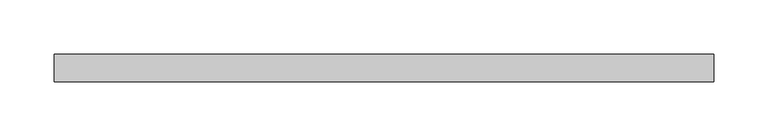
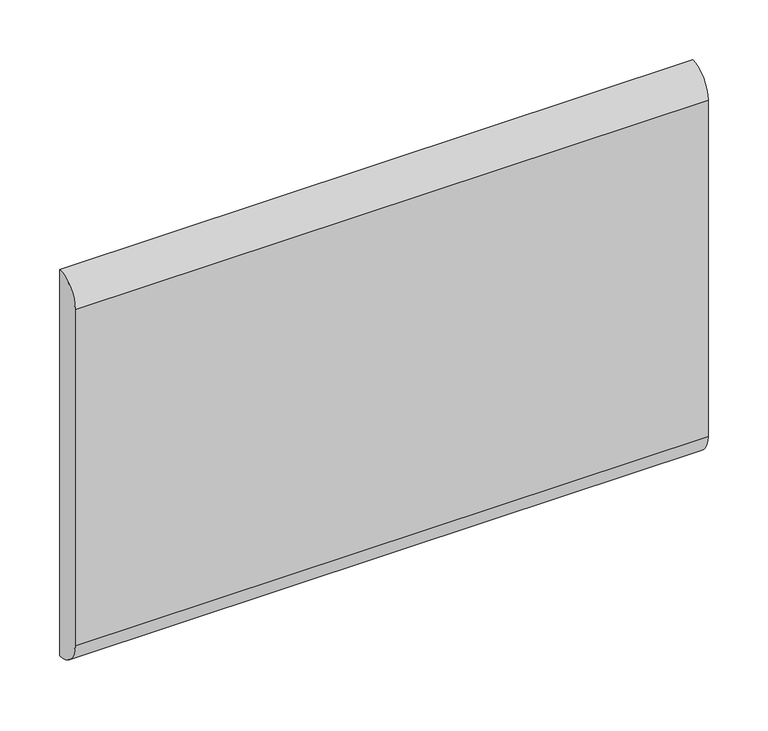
"""IFC4 building model written with IfcOpenShell, lengths in millimetres: furniture geometry."""

from ifc_helpers import new_model, si_unit, point, frame, frame_2d, origin, place, context, project, spatial, polyline, circle_curve, trimmed, segment, composite_curve, outline, extrude, source, transform, mapped, element, save


def furniture_061b7ed1(model_context):
    return source(origin(), model_context, "Body", "SweptSolid", [
        extrude(outline(composite_curve([segment(trimmed(circle_curve(frame_2d((12.7, 812.8)), 25.4), [point((12.7, 787.4))], [point((-12.7, 812.8))], False, "CARTESIAN"), True, "CONTINUOUS"), segment(polyline([(-12.7, 812.8), (-12.7, 1155.7)]), True, "CONTINUOUS"), segment(trimmed(circle_curve(frame_2d((12.7, 1155.7)), 25.4), [point((-12.7, 1155.7))], [point((12.7, 1181.1))], False, "CARTESIAN"), True, "CONTINUOUS"), segment(polyline([(12.7, 1181.1), (12.7, 787.4)]), True, "CONTINUOUS")], self_intersect=False)), frame((-304.8, 0.0, 0.0), z_axis=(1.0, 0.0, 0.0), x_axis=(0.0, 1.0, 0.0)), (0.0, 0.0, 1.0), 609.6),
    ])


if __name__ == "__main__":
    model = new_model("IFC4")
    model_context = context("Model", 3, world=origin())
    ifc_project = project(units=[si_unit("LENGTHUNIT", "METRE", prefix="MILLI")], contexts=[model_context])
    site = spatial("IfcSite", under=ifc_project)
    building = spatial("IfcBuilding", under=site)
    placement = place(None, origin())
    furniture_shape = furniture_061b7ed1(model_context)
    element("IfcFurniture", 1, ObjectType="HermanMiller_ActionOffice_A3410_B-StyleTackboard : 16\"H x 24\"W", at=placement, inside=building, context=model_context, shape_type="MappedRepresentation", body=[
        mapped(furniture_shape, transform((0.0, 0.0, 0.0), x_axis=(1.0, 0.0, 0.0), y_axis=(0.0, 1.0, 0.0), z_axis=(0.0, 0.0, 1.0))),
    ])
    save(model, "model.ifc")
